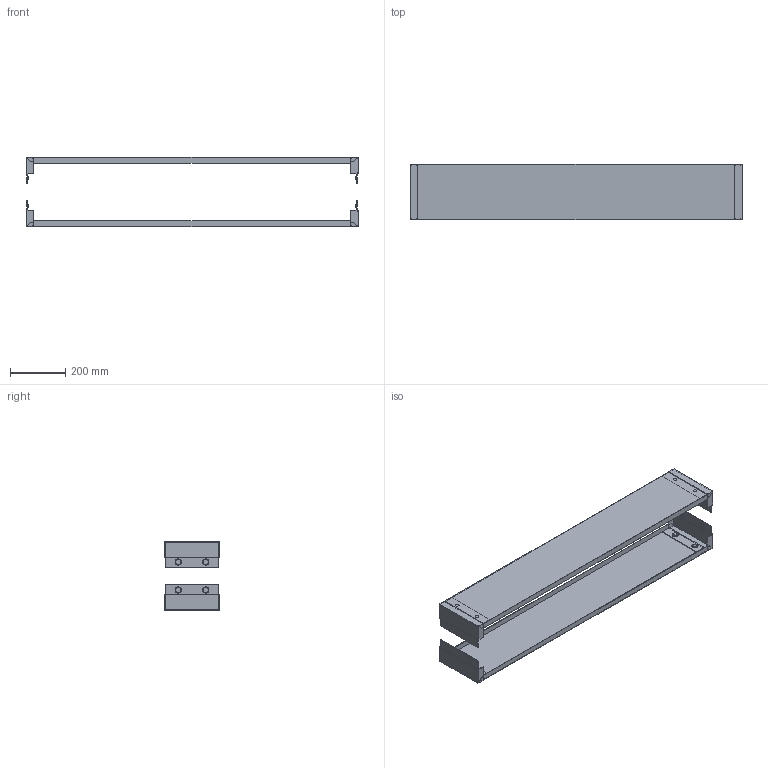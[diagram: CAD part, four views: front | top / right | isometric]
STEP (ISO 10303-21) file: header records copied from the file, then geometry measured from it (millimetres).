
FILE_DESCRIPTION( ( 'STEP AP214' ), '1' );
FILE_NAME( 'p:/temp/worker_242/temp/exporttempdir_1376_88_n0k4N/format_0/P2120(0).stp', '2021-03-16T11:03:52', ( 'License CC BY-ND 4.0' ), ( 'CADENAS' ), ' ', 'PARTsolutions', ' ' );
FILE_SCHEMA( ( 'AUTOMOTIVE_DESIGN { 1 0 10303 214 1 1 1 1 }' ) );
Length unit declared in the file: millimetre
Products named in the file (3): P2120(0); _P2120(0)_P1; _P2120(0)_P2
Assembly tree (6 placements, depth 2):
  P2120(0)
    _P2120(0)_P1  x2
    _P2120(0)_P2  x4
Bounding box: 1200 x 200 x 251.08 mm (x, y, z)
Volume: 1176428.4 mm3; surface area: 1380356.7 mm2
Topology: 6 solids, 6 shells, 308 faces, 808 edges, 536 vertices
Faces by surface type: plane 268, cone 24, torus 16
Entity records: 3246 total; most frequent: CARTESIAN_POINT 439, DIRECTION 410, ORIENTED_EDGE 408, EDGE_CURVE 204, LINE 184, VECTOR 184, VERTEX_POINT 142, AXIS2_PLACEMENT_3D 113
